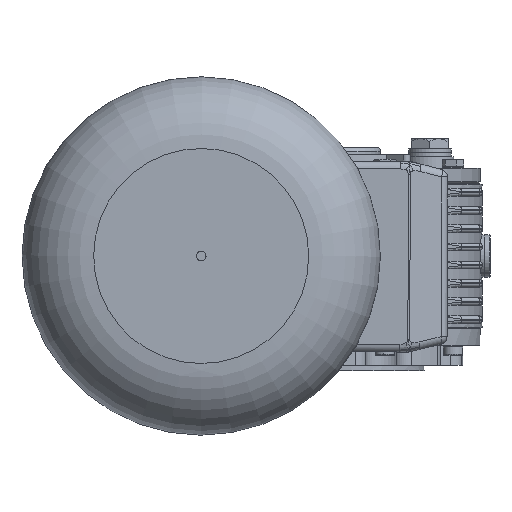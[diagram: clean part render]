
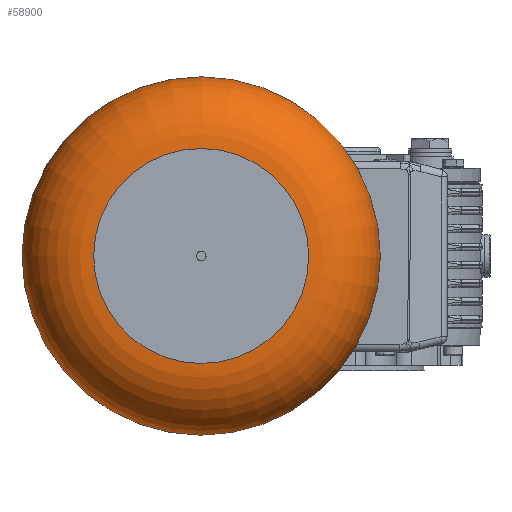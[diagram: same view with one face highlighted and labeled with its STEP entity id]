
A CAD part, left-side view. The second image highlights one B-rep face of the part: STEP entity #58900.
In plain terms, the highlighted toroidal (fillet/blend) face has major radius 55.5 mm and minor radius 37 mm.
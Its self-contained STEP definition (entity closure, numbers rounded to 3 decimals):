
#58873=CARTESIAN_POINT('',(375.0,0.0,0.0));
#58874=DIRECTION('',(1.0,0.0,0.0));
#58875=DIRECTION('',(0.0,0.0,-1.0));
#58876=AXIS2_PLACEMENT_3D('',#58873,#58874,#58875);
#58877=TOROIDAL_SURFACE('',#58876,55.5,37.0);
#58878=CARTESIAN_POINT('',(412.0,55.5,0.0));
#58879=VERTEX_POINT('',#58878);
#58880=CARTESIAN_POINT('',(412.0,0.0,0.0));
#58881=DIRECTION('',(1.0,0.0,0.0));
#58882=DIRECTION('',(0.0,1.0,0.0));
#58883=AXIS2_PLACEMENT_3D('',#58880,#58881,#58882);
#58884=CIRCLE('',#58883,55.5);
#58885=EDGE_CURVE('',#58879,#58879,#58884,.T.);
#58886=ORIENTED_EDGE('',*,*,#58885,.F.);
#58887=EDGE_LOOP('',(#58886));
#58888=FACE_OUTER_BOUND('',#58887,.T.);
#58889=CARTESIAN_POINT('',(375.0,92.5,0.0));
#58890=VERTEX_POINT('',#58889);
#58891=CARTESIAN_POINT('',(375.0,0.0,0.0));
#58892=DIRECTION('',(1.0,0.0,0.0));
#58893=DIRECTION('',(0.0,1.0,0.0));
#58894=AXIS2_PLACEMENT_3D('',#58891,#58892,#58893);
#58895=CIRCLE('',#58894,92.5);
#58896=EDGE_CURVE('',#58890,#58890,#58895,.T.);
#58897=ORIENTED_EDGE('',*,*,#58896,.T.);
#58898=EDGE_LOOP('',(#58897));
#58899=FACE_BOUND('',#58898,.T.);
#58900=ADVANCED_FACE('',(#58888,#58899),#58877,.T.);
